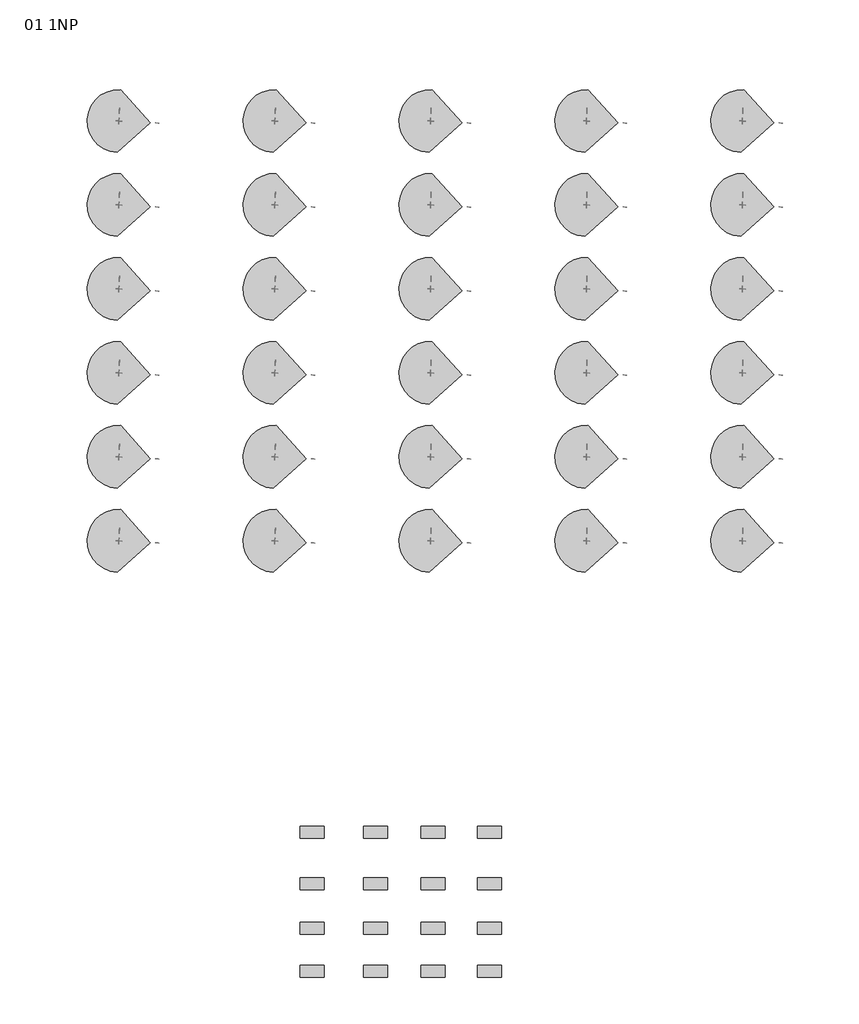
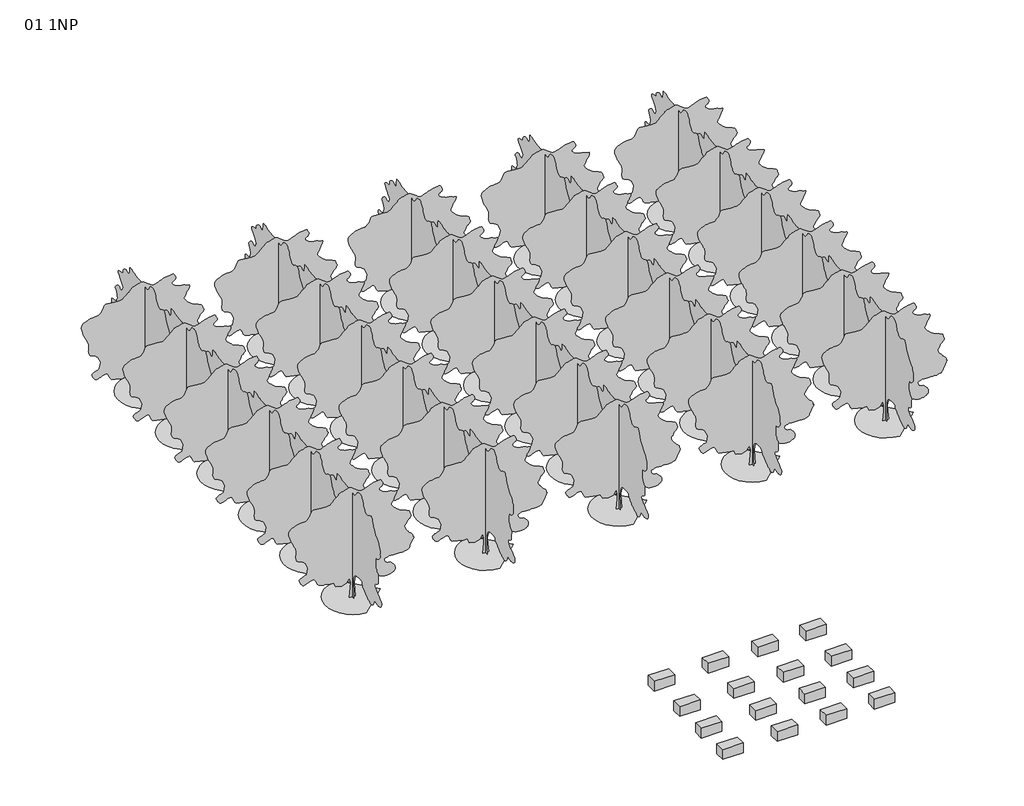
# One storey: 30 geographic elements, 16 proxies.
"""IFC4 building model written with IfcOpenShell, lengths in millimetres."""

from ifc_helpers import new_model, si_unit, origin, place, context, project, spatial, transform, mapped, element, save
from components import generic_models_0a1efdf9, geographic_element_93c3b281

model = new_model("IFC4")

# Units and contexts
model_context = context("Model", 3, world=origin())
ifc_project = project(units=[si_unit("LENGTHUNIT", "METRE", prefix="MILLI")], contexts=[model_context])

# Site, building, storey
site = spatial("IfcSite", under=ifc_project)
building = spatial("IfcBuilding", under=site)
storey = spatial("IfcBuildingStorey", under=building, Name="01 1NP", Elevation=0.0)

# Proxies
placement = place(None, origin())
generic_models_shape = generic_models_0a1efdf9(model_context)
element("IfcBuildingElementProxy", 1, Name="Rodina1 : Rodina1", ObjectType="Rodina1 : Rodina1", at=placement, inside=storey, context=model_context, shape_type="MappedRepresentation", body=[
    mapped(generic_models_shape, transform((27193.3410977, -30396.5417036, 0.0), x_axis=(1.0, 0.0, 0.0), y_axis=(0.0, 1.0, 0.0), z_axis=(0.0, 0.0, 1.0))),
])
element("IfcBuildingElementProxy", 2, Name="Rodina1 : Rodina1", ObjectType="Rodina1 : Rodina1", at=placement, inside=storey, context=model_context, shape_type="MappedRepresentation", body=[
    mapped(generic_models_shape, transform((27193.3410977, -34701.3417036, 0.0), x_axis=(1.0, 0.0, 0.0), y_axis=(0.0, 1.0, 0.0), z_axis=(0.0, 0.0, 1.0))),
])
element("IfcBuildingElementProxy", 3, Name="Rodina1 : Rodina1", ObjectType="Rodina1 : Rodina1", at=placement, inside=storey, context=model_context, shape_type="MappedRepresentation", body=[
    mapped(generic_models_shape, transform((27193.3410977, -38406.1417036, 0.0), x_axis=(1.0, 0.0, 0.0), y_axis=(0.0, 1.0, 0.0), z_axis=(0.0, 0.0, 1.0))),
])
element("IfcBuildingElementProxy", 4, Name="Rodina1 : Rodina1", ObjectType="Rodina1 : Rodina1", at=placement, inside=storey, context=model_context, shape_type="MappedRepresentation", body=[
    mapped(generic_models_shape, transform((27193.3410977, -42010.9417036, 0.0), x_axis=(1.0, 0.0, 0.0), y_axis=(0.0, 1.0, 0.0), z_axis=(0.0, 0.0, 1.0))),
])
element("IfcBuildingElementProxy", 5, Name="Rodina1 : Rodina1", ObjectType="Rodina1 : Rodina1", at=placement, inside=storey, context=model_context, shape_type="MappedRepresentation", body=[
    mapped(generic_models_shape, transform((32488.5410977, -30396.5417036, 0.0), x_axis=(1.0, 0.0, 0.0), y_axis=(0.0, 1.0, 0.0), z_axis=(0.0, 0.0, 1.0))),
])
element("IfcBuildingElementProxy", 6, Name="Rodina1 : Rodina1", ObjectType="Rodina1 : Rodina1", at=placement, inside=storey, context=model_context, shape_type="MappedRepresentation", body=[
    mapped(generic_models_shape, transform((32488.5410977, -34701.3417036, 0.0), x_axis=(1.0, 0.0, 0.0), y_axis=(0.0, 1.0, 0.0), z_axis=(0.0, 0.0, 1.0))),
])
element("IfcBuildingElementProxy", 7, Name="Rodina1 : Rodina1", ObjectType="Rodina1 : Rodina1", at=placement, inside=storey, context=model_context, shape_type="MappedRepresentation", body=[
    mapped(generic_models_shape, transform((32488.5410977, -38406.1417036, 0.0), x_axis=(1.0, 0.0, 0.0), y_axis=(0.0, 1.0, 0.0), z_axis=(0.0, 0.0, 1.0))),
])
element("IfcBuildingElementProxy", 8, Name="Rodina1 : Rodina1", ObjectType="Rodina1 : Rodina1", at=placement, inside=storey, context=model_context, shape_type="MappedRepresentation", body=[
    mapped(generic_models_shape, transform((32488.5410977, -42010.9417036, 0.0), x_axis=(1.0, 0.0, 0.0), y_axis=(0.0, 1.0, 0.0), z_axis=(0.0, 0.0, 1.0))),
])
element("IfcBuildingElementProxy", 9, Name="Rodina1 : Rodina1", ObjectType="Rodina1 : Rodina1", at=placement, inside=storey, context=model_context, shape_type="MappedRepresentation", body=[
    mapped(generic_models_shape, transform((37283.7410977, -30396.5417036, 0.0), x_axis=(1.0, 0.0, 0.0), y_axis=(0.0, 1.0, 0.0), z_axis=(0.0, 0.0, 1.0))),
])
element("IfcBuildingElementProxy", 10, Name="Rodina1 : Rodina1", ObjectType="Rodina1 : Rodina1", at=placement, inside=storey, context=model_context, shape_type="MappedRepresentation", body=[
    mapped(generic_models_shape, transform((37283.7410977, -34701.3417036, 0.0), x_axis=(1.0, 0.0, 0.0), y_axis=(0.0, 1.0, 0.0), z_axis=(0.0, 0.0, 1.0))),
])
element("IfcBuildingElementProxy", 11, Name="Rodina1 : Rodina1", ObjectType="Rodina1 : Rodina1", at=placement, inside=storey, context=model_context, shape_type="MappedRepresentation", body=[
    mapped(generic_models_shape, transform((37283.7410977, -38406.1417036, 0.0), x_axis=(1.0, 0.0, 0.0), y_axis=(0.0, 1.0, 0.0), z_axis=(0.0, 0.0, 1.0))),
])
element("IfcBuildingElementProxy", 12, Name="Rodina1 : Rodina1", ObjectType="Rodina1 : Rodina1", at=placement, inside=storey, context=model_context, shape_type="MappedRepresentation", body=[
    mapped(generic_models_shape, transform((37283.7410977, -42010.9417036, 0.0), x_axis=(1.0, 0.0, 0.0), y_axis=(0.0, 1.0, 0.0), z_axis=(0.0, 0.0, 1.0))),
])
element("IfcBuildingElementProxy", 13, Name="Rodina1 : Rodina1", ObjectType="Rodina1 : Rodina1", at=placement, inside=storey, context=model_context, shape_type="MappedRepresentation", body=[
    mapped(generic_models_shape, transform((41978.9410977, -30396.5417036, 0.0), x_axis=(1.0, 0.0, 0.0), y_axis=(0.0, 1.0, 0.0), z_axis=(0.0, 0.0, 1.0))),
])
element("IfcBuildingElementProxy", 14, Name="Rodina1 : Rodina1", ObjectType="Rodina1 : Rodina1", at=placement, inside=storey, context=model_context, shape_type="MappedRepresentation", body=[
    mapped(generic_models_shape, transform((41978.9410977, -34701.3417036, 0.0), x_axis=(1.0, 0.0, 0.0), y_axis=(0.0, 1.0, 0.0), z_axis=(0.0, 0.0, 1.0))),
])
element("IfcBuildingElementProxy", 15, Name="Rodina1 : Rodina1", ObjectType="Rodina1 : Rodina1", at=placement, inside=storey, context=model_context, shape_type="MappedRepresentation", body=[
    mapped(generic_models_shape, transform((41978.9410977, -38406.1417036, 0.0), x_axis=(1.0, 0.0, 0.0), y_axis=(0.0, 1.0, 0.0), z_axis=(0.0, 0.0, 1.0))),
])
element("IfcBuildingElementProxy", 16, Name="Rodina1 : Rodina1", ObjectType="Rodina1 : Rodina1", at=placement, inside=storey, context=model_context, shape_type="MappedRepresentation", body=[
    mapped(generic_models_shape, transform((41978.9410977, -42010.9417036, 0.0), x_axis=(1.0, 0.0, 0.0), y_axis=(0.0, 1.0, 0.0), z_axis=(0.0, 0.0, 1.0))),
])

# Geographic elements
geographic_element_shape = geographic_element_93c3b281(model_context)
element("IfcGeographicElement", 17, ObjectType="RPC strom, listnatý : Dub šarlatový, 12,5 m", at=placement, inside=storey, context=model_context, shape_type="MappedRepresentation", body=[
    mapped(geographic_element_shape, transform((12074.2380241, -5627.5573807, 0.0), x_axis=(-0.05233595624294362, -0.9986295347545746, 0.0), y_axis=(0.9986295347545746, -0.05233595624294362, 0.0), z_axis=(0.0, 0.0, 1.0))),
])
element("IfcGeographicElement", 18, ObjectType="RPC strom, listnatý : Dub šarlatový, 12,5 m", at=placement, inside=storey, context=model_context, shape_type="MappedRepresentation", body=[
    mapped(geographic_element_shape, transform((25074.2380241, -5627.5573807, 0.0), x_axis=(-0.052335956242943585, -0.9986295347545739, 0.0), y_axis=(0.9986295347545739, -0.052335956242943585, 0.0), z_axis=(0.0, 0.0, 1.0))),
])
element("IfcGeographicElement", 19, ObjectType="RPC strom, listnatý : Dub šarlatový, 12,5 m", at=placement, inside=storey, context=model_context, shape_type="MappedRepresentation", body=[
    mapped(geographic_element_shape, transform((38074.2380241, -5627.5573807, 0.0), x_axis=(-0.052335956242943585, -0.9986295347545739, 0.0), y_axis=(0.9986295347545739, -0.052335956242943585, 0.0), z_axis=(0.0, 0.0, 1.0))),
])
element("IfcGeographicElement", 20, ObjectType="RPC strom, listnatý : Dub šarlatový, 12,5 m", at=placement, inside=storey, context=model_context, shape_type="MappedRepresentation", body=[
    mapped(geographic_element_shape, transform((51074.2380241, -5627.5573807, 0.0), x_axis=(-0.052335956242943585, -0.9986295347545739, 0.0), y_axis=(0.9986295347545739, -0.052335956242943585, 0.0), z_axis=(0.0, 0.0, 1.0))),
])
element("IfcGeographicElement", 21, ObjectType="RPC strom, listnatý : Dub šarlatový, 12,5 m", at=placement, inside=storey, context=model_context, shape_type="MappedRepresentation", body=[
    mapped(geographic_element_shape, transform((64074.2380241, -5627.5573807, 0.0), x_axis=(-0.052335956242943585, -0.9986295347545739, 0.0), y_axis=(0.9986295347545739, -0.052335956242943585, 0.0), z_axis=(0.0, 0.0, 1.0))),
])
element("IfcGeographicElement", 22, ObjectType="RPC strom, listnatý : Dub šarlatový, 12,5 m", at=placement, inside=storey, context=model_context, shape_type="MappedRepresentation", body=[
    mapped(geographic_element_shape, transform((12074.2380241, 1372.4426193, 0.0), x_axis=(-0.052335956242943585, -0.9986295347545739, 0.0), y_axis=(0.9986295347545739, -0.052335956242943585, 0.0), z_axis=(0.0, 0.0, 1.0))),
])
element("IfcGeographicElement", 23, ObjectType="RPC strom, listnatý : Dub šarlatový, 12,5 m", at=placement, inside=storey, context=model_context, shape_type="MappedRepresentation", body=[
    mapped(geographic_element_shape, transform((25074.2380241, 1372.4426193, 0.0), x_axis=(-0.052335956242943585, -0.9986295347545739, 0.0), y_axis=(0.9986295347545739, -0.052335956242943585, 0.0), z_axis=(0.0, 0.0, 1.0))),
])
element("IfcGeographicElement", 24, ObjectType="RPC strom, listnatý : Dub šarlatový, 12,5 m", at=placement, inside=storey, context=model_context, shape_type="MappedRepresentation", body=[
    mapped(geographic_element_shape, transform((38074.2380241, 1372.4426193, 0.0), x_axis=(-0.052335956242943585, -0.9986295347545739, 0.0), y_axis=(0.9986295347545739, -0.052335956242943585, 0.0), z_axis=(0.0, 0.0, 1.0))),
])
element("IfcGeographicElement", 25, ObjectType="RPC strom, listnatý : Dub šarlatový, 12,5 m", at=placement, inside=storey, context=model_context, shape_type="MappedRepresentation", body=[
    mapped(geographic_element_shape, transform((51074.2380241, 1372.4426193, 0.0), x_axis=(-0.052335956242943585, -0.9986295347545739, 0.0), y_axis=(0.9986295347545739, -0.052335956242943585, 0.0), z_axis=(0.0, 0.0, 1.0))),
])
element("IfcGeographicElement", 26, ObjectType="RPC strom, listnatý : Dub šarlatový, 12,5 m", at=placement, inside=storey, context=model_context, shape_type="MappedRepresentation", body=[
    mapped(geographic_element_shape, transform((64074.2380241, 1372.4426193, 0.0), x_axis=(-0.052335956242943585, -0.9986295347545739, 0.0), y_axis=(0.9986295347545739, -0.052335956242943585, 0.0), z_axis=(0.0, 0.0, 1.0))),
])
element("IfcGeographicElement", 27, ObjectType="RPC strom, listnatý : Dub šarlatový, 12,5 m", at=placement, inside=storey, context=model_context, shape_type="MappedRepresentation", body=[
    mapped(geographic_element_shape, transform((12074.2380241, 8372.4426193, 0.0), x_axis=(-0.052335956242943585, -0.9986295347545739, 0.0), y_axis=(0.9986295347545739, -0.052335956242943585, 0.0), z_axis=(0.0, 0.0, 1.0))),
])
element("IfcGeographicElement", 28, ObjectType="RPC strom, listnatý : Dub šarlatový, 12,5 m", at=placement, inside=storey, context=model_context, shape_type="MappedRepresentation", body=[
    mapped(geographic_element_shape, transform((25074.2380241, 8372.4426193, 0.0), x_axis=(-0.052335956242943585, -0.9986295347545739, 0.0), y_axis=(0.9986295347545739, -0.052335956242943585, 0.0), z_axis=(0.0, 0.0, 1.0))),
])
element("IfcGeographicElement", 29, ObjectType="RPC strom, listnatý : Dub šarlatový, 12,5 m", at=placement, inside=storey, context=model_context, shape_type="MappedRepresentation", body=[
    mapped(geographic_element_shape, transform((38074.2380241, 8372.4426193, 0.0), x_axis=(-0.052335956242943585, -0.9986295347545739, 0.0), y_axis=(0.9986295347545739, -0.052335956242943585, 0.0), z_axis=(0.0, 0.0, 1.0))),
])
element("IfcGeographicElement", 30, ObjectType="RPC strom, listnatý : Dub šarlatový, 12,5 m", at=placement, inside=storey, context=model_context, shape_type="MappedRepresentation", body=[
    mapped(geographic_element_shape, transform((51074.2380241, 8372.4426193, 0.0), x_axis=(-0.052335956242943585, -0.9986295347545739, 0.0), y_axis=(0.9986295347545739, -0.052335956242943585, 0.0), z_axis=(0.0, 0.0, 1.0))),
])
element("IfcGeographicElement", 31, ObjectType="RPC strom, listnatý : Dub šarlatový, 12,5 m", at=placement, inside=storey, context=model_context, shape_type="MappedRepresentation", body=[
    mapped(geographic_element_shape, transform((64074.2380241, 8372.4426193, 0.0), x_axis=(-0.052335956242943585, -0.9986295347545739, 0.0), y_axis=(0.9986295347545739, -0.052335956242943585, 0.0), z_axis=(0.0, 0.0, 1.0))),
])
element("IfcGeographicElement", 32, ObjectType="RPC strom, listnatý : Dub šarlatový, 12,5 m", at=placement, inside=storey, context=model_context, shape_type="MappedRepresentation", body=[
    mapped(geographic_element_shape, transform((12074.2380241, 15372.4426193, 0.0), x_axis=(-0.052335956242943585, -0.9986295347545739, 0.0), y_axis=(0.9986295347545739, -0.052335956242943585, 0.0), z_axis=(0.0, 0.0, 1.0))),
])
element("IfcGeographicElement", 33, ObjectType="RPC strom, listnatý : Dub šarlatový, 12,5 m", at=placement, inside=storey, context=model_context, shape_type="MappedRepresentation", body=[
    mapped(geographic_element_shape, transform((25074.2380241, 15372.4426193, 0.0), x_axis=(-0.052335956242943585, -0.9986295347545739, 0.0), y_axis=(0.9986295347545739, -0.052335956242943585, 0.0), z_axis=(0.0, 0.0, 1.0))),
])
element("IfcGeographicElement", 34, ObjectType="RPC strom, listnatý : Dub šarlatový, 12,5 m", at=placement, inside=storey, context=model_context, shape_type="MappedRepresentation", body=[
    mapped(geographic_element_shape, transform((38074.2380241, 15372.4426193, 0.0), x_axis=(-0.052335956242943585, -0.9986295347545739, 0.0), y_axis=(0.9986295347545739, -0.052335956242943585, 0.0), z_axis=(0.0, 0.0, 1.0))),
])
element("IfcGeographicElement", 35, ObjectType="RPC strom, listnatý : Dub šarlatový, 12,5 m", at=placement, inside=storey, context=model_context, shape_type="MappedRepresentation", body=[
    mapped(geographic_element_shape, transform((51074.2380241, 15372.4426193, 0.0), x_axis=(-0.052335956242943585, -0.9986295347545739, 0.0), y_axis=(0.9986295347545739, -0.052335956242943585, 0.0), z_axis=(0.0, 0.0, 1.0))),
])
element("IfcGeographicElement", 36, ObjectType="RPC strom, listnatý : Dub šarlatový, 12,5 m", at=placement, inside=storey, context=model_context, shape_type="MappedRepresentation", body=[
    mapped(geographic_element_shape, transform((64074.2380241, 15372.4426193, 0.0), x_axis=(-0.052335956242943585, -0.9986295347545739, 0.0), y_axis=(0.9986295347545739, -0.052335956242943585, 0.0), z_axis=(0.0, 0.0, 1.0))),
])
element("IfcGeographicElement", 37, ObjectType="RPC strom, listnatý : Dub šarlatový, 12,5 m", at=placement, inside=storey, context=model_context, shape_type="MappedRepresentation", body=[
    mapped(geographic_element_shape, transform((12074.2380241, 22372.4426193, 0.0), x_axis=(-0.052335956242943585, -0.9986295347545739, 0.0), y_axis=(0.9986295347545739, -0.052335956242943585, 0.0), z_axis=(0.0, 0.0, 1.0))),
])
element("IfcGeographicElement", 38, ObjectType="RPC strom, listnatý : Dub šarlatový, 12,5 m", at=placement, inside=storey, context=model_context, shape_type="MappedRepresentation", body=[
    mapped(geographic_element_shape, transform((25074.2380241, 22372.4426193, 0.0), x_axis=(-0.052335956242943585, -0.9986295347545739, 0.0), y_axis=(0.9986295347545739, -0.052335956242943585, 0.0), z_axis=(0.0, 0.0, 1.0))),
])
element("IfcGeographicElement", 39, ObjectType="RPC strom, listnatý : Dub šarlatový, 12,5 m", at=placement, inside=storey, context=model_context, shape_type="MappedRepresentation", body=[
    mapped(geographic_element_shape, transform((38074.2380241, 22372.4426193, 0.0), x_axis=(-0.052335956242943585, -0.9986295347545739, 0.0), y_axis=(0.9986295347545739, -0.052335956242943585, 0.0), z_axis=(0.0, 0.0, 1.0))),
])
element("IfcGeographicElement", 40, ObjectType="RPC strom, listnatý : Dub šarlatový, 12,5 m", at=placement, inside=storey, context=model_context, shape_type="MappedRepresentation", body=[
    mapped(geographic_element_shape, transform((51074.2380241, 22372.4426193, 0.0), x_axis=(-0.052335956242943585, -0.9986295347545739, 0.0), y_axis=(0.9986295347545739, -0.052335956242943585, 0.0), z_axis=(0.0, 0.0, 1.0))),
])
element("IfcGeographicElement", 41, ObjectType="RPC strom, listnatý : Dub šarlatový, 12,5 m", at=placement, inside=storey, context=model_context, shape_type="MappedRepresentation", body=[
    mapped(geographic_element_shape, transform((64074.2380241, 22372.4426193, 0.0), x_axis=(-0.052335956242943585, -0.9986295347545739, 0.0), y_axis=(0.9986295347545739, -0.052335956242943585, 0.0), z_axis=(0.0, 0.0, 1.0))),
])
element("IfcGeographicElement", 42, ObjectType="RPC strom, listnatý : Dub šarlatový, 12,5 m", at=placement, inside=storey, context=model_context, shape_type="MappedRepresentation", body=[
    mapped(geographic_element_shape, transform((12074.2380241, 29372.4426193, 0.0), x_axis=(-0.052335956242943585, -0.9986295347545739, 0.0), y_axis=(0.9986295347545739, -0.052335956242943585, 0.0), z_axis=(0.0, 0.0, 1.0))),
])
element("IfcGeographicElement", 43, ObjectType="RPC strom, listnatý : Dub šarlatový, 12,5 m", at=placement, inside=storey, context=model_context, shape_type="MappedRepresentation", body=[
    mapped(geographic_element_shape, transform((25074.2380241, 29372.4426193, 0.0), x_axis=(-0.052335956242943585, -0.9986295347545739, 0.0), y_axis=(0.9986295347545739, -0.052335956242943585, 0.0), z_axis=(0.0, 0.0, 1.0))),
])
element("IfcGeographicElement", 44, ObjectType="RPC strom, listnatý : Dub šarlatový, 12,5 m", at=placement, inside=storey, context=model_context, shape_type="MappedRepresentation", body=[
    mapped(geographic_element_shape, transform((38074.2380241, 29372.4426193, 0.0), x_axis=(-0.052335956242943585, -0.9986295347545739, 0.0), y_axis=(0.9986295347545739, -0.052335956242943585, 0.0), z_axis=(0.0, 0.0, 1.0))),
])
element("IfcGeographicElement", 45, ObjectType="RPC strom, listnatý : Dub šarlatový, 12,5 m", at=placement, inside=storey, context=model_context, shape_type="MappedRepresentation", body=[
    mapped(geographic_element_shape, transform((51074.2380241, 29372.4426193, 0.0), x_axis=(-0.052335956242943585, -0.9986295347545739, 0.0), y_axis=(0.9986295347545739, -0.052335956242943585, 0.0), z_axis=(0.0, 0.0, 1.0))),
])
element("IfcGeographicElement", 46, ObjectType="RPC strom, listnatý : Dub šarlatový, 12,5 m", at=placement, inside=storey, context=model_context, shape_type="MappedRepresentation", body=[
    mapped(geographic_element_shape, transform((64074.2380241, 29372.4426193, 0.0), x_axis=(-0.052335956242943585, -0.9986295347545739, 0.0), y_axis=(0.9986295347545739, -0.052335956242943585, 0.0), z_axis=(0.0, 0.0, 1.0))),
])

save(model, "model.ifc")
